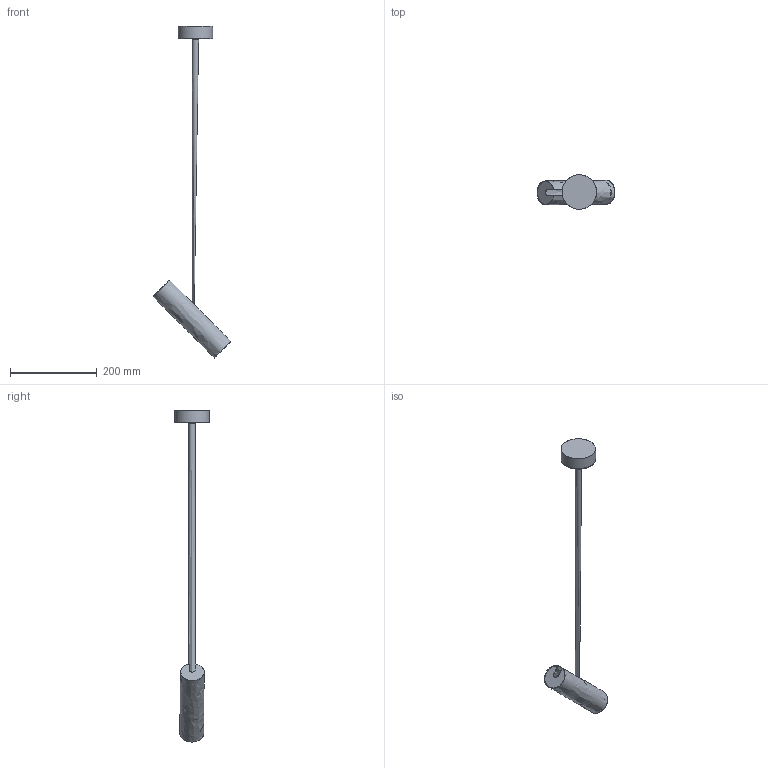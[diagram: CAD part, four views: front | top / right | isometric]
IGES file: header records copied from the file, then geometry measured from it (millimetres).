
Start section: SolidWorks IGES file using NURBS representation for surfaces
Global section: file name: Z:\Modele 3D_WWW\_KOLEKCJE WWW\EYE-SUPER\EYE-SUPER-B-6490-6496-6503\EYE-SUPER-B-6490-6496-6503.IGS; native system: SolidWorks 2021; preprocessor: SolidWorks 2021; author: gabriela.tworek; date: 220324.075417; units: millimetre
Bounding box: 180.08 x 80 x 766.53 mm (x, y, z)
Surface area: 122321.9 mm2 (no closed solid volume)
Topology: 0 solids, 0 shells, 21 faces, 114 edges, 108 vertices
Faces by surface type: bspline 21
